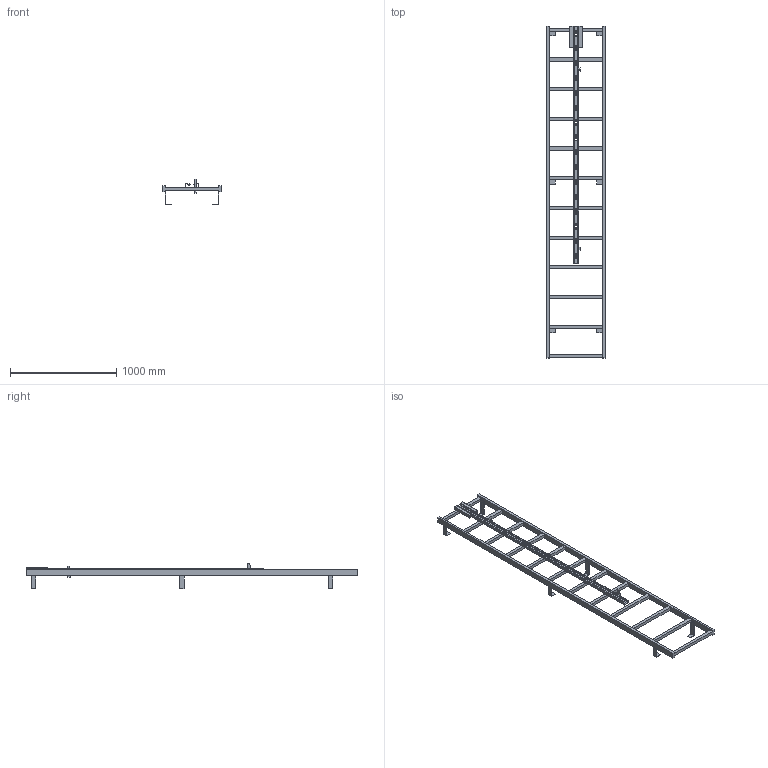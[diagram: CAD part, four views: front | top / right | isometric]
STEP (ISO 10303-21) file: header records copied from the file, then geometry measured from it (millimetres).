
FILE_DESCRIPTION((''),'2;1');
FILE_NAME('52330191','2024-12-05T08:59:30',('wep'),('HUBER SE'),'CREO PARAMETRIC BY PTC INC, 2022162','CREO PARAMETRIC BY PTC INC, 2022162','');
FILE_SCHEMA(('AUTOMOTIVE_DESIGN { 1 0 10303 214 1 1 1 1 }'));
Length unit declared in the file: millimetre
Products named in the file (1): 52330191
Bounding box: 550 x 3130 x 239 mm (x, y, z)
Volume: 14785416 mm3; surface area: 2472776.9 mm2
Topology: 2 solids, 2 shells, 220 faces, 638 edges, 416 vertices
Faces by surface type: plane 220
Entity records: 7741 total; most frequent: CARTESIAN_POINT 1276, ORIENTED_EDGE 1276, DIRECTION 1078, VECTOR 638, LINE 638, EDGE_CURVE 638, VERTEX_POINT 416, EDGE_LOOP 272
